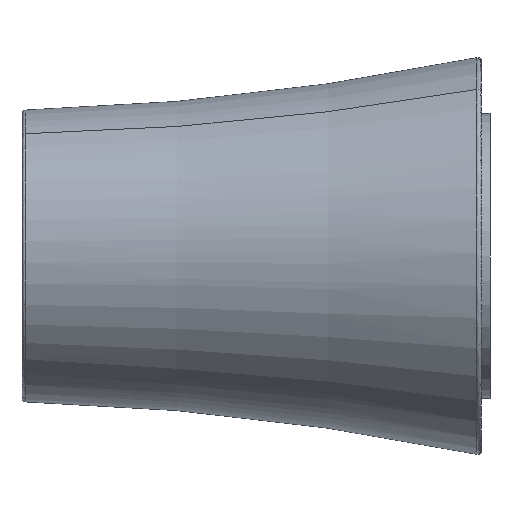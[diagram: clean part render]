
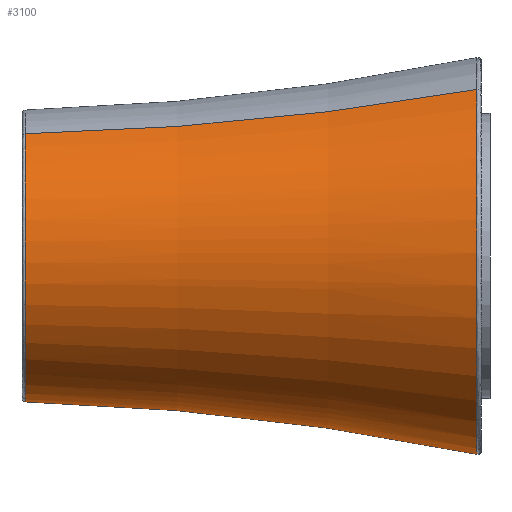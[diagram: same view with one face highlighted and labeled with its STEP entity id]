
A CAD part, left-side view. The second image highlights one B-rep face of the part: STEP entity #3100.
In plain terms, the highlighted toroidal (fillet/blend) face has major radius 1183.62 mm and minor radius 1120 mm.
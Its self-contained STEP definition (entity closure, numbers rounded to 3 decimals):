
#43 = CARTESIAN_POINT ( 'NONE',  ( -76.117, 5.709, -42.912 ) ) ;
#70 = CARTESIAN_POINT ( 'NONE',  ( -52.467, 5.709, 69.874 ) ) ;
#147 = CARTESIAN_POINT ( 'NONE',  ( -69.874, 5.709, -52.467 ) ) ;
#175 = CARTESIAN_POINT ( 'NONE',  ( -42.816, 203.745, -47.807 ) ) ;
#242 = ORIENTED_EDGE ( 'NONE', *, *, #2984, .T. ) ;
#276 = CARTESIAN_POINT ( 'NONE',  ( 27.783, 203.745, -57.851 ) ) ;
#283 = CARTESIAN_POINT ( 'NONE',  ( 47.69, 5.709, -72.996 ) ) ;
#284 = CARTESIAN_POINT ( 'NONE',  ( -47.69, 5.709, 72.996 ) ) ;
#392 = AXIS2_PLACEMENT_3D ( 'NONE', #3980, #2947, #671 ) ;
#435 = CARTESIAN_POINT ( 'NONE',  ( -68.774, 5.709, 53.901 ) ) ;
#475 = VERTEX_POINT ( 'NONE', #3193 ) ;
#540 = CARTESIAN_POINT ( 'NONE',  ( -63.993, 203.745, 4.853 ) ) ;
#565 = CARTESIAN_POINT ( 'NONE',  ( -47.807, 203.745, 42.816 ) ) ;
#616 = CARTESIAN_POINT ( 'NONE',  ( -9.04, 203.745, -63.537 ) ) ;
#644 = CARTESIAN_POINT ( 'NONE',  ( 31.517, 203.745, -55.905 ) ) ;
#666 = DIRECTION ( 'NONE',  ( 0.837, 0., 0.547 ) ) ;
#671 = DIRECTION ( 'NONE',  ( -0.547, 0., 0.837 ) ) ;
#754 = ORIENTED_EDGE ( 'NONE', *, *, #4588, .F. ) ;
#800 = CARTESIAN_POINT ( 'NONE',  ( -82.445, 5.709, 28.949 ) ) ;
#822 = CARTESIAN_POINT ( 'NONE',  ( -53.901, 5.709, -68.774 ) ) ;
#933 = CARTESIAN_POINT ( 'NONE',  ( -62.16, 203.745, -15.963 ) ) ;
#962 = CARTESIAN_POINT ( 'NONE',  ( -63.537, 203.745, 9.04 ) ) ;
#986 = CARTESIAN_POINT ( 'NONE',  ( -21.262, 203.745, -60.552 ) ) ;
#1092 = AXIS2_PLACEMENT_3D ( 'NONE', #3491, #1519, #3415 ) ;
#1178 = CARTESIAN_POINT ( 'NONE',  ( -44.477, 5.709, -75.213 ) ) ;
#1276 = CARTESIAN_POINT ( 'NONE',  ( -87.248, 5.709, -4.805 ) ) ;
#1305 = CARTESIAN_POINT ( 'NONE',  ( -57.265, 203.745, 28.973 ) ) ;
#1333 = CARTESIAN_POINT ( 'NONE',  ( -63.71, 203.745, -7.724 ) ) ;
#1359 = VERTEX_POINT ( 'NONE', #3525 ) ;
#1384 = EDGE_LOOP ( 'NONE', ( #754, #4278, #242, #3729 ) ) ;
#1519 = DIRECTION ( 'NONE',  ( 0., 1., 0. ) ) ;
#1544 = CARTESIAN_POINT ( 'NONE',  ( -86.509, 5.709, 12.308 ) ) ;
#1622 = CARTESIAN_POINT ( 'NONE',  ( 4.805, 5.709, -87.248 ) ) ;
#1650 = CARTESIAN_POINT ( 'NONE',  ( -78.768, 5.709, -37.827 ) ) ;
#1674 = CARTESIAN_POINT ( 'NONE',  ( -61.817, 203.745, 17.244 ) ) ;
#1697 = CARTESIAN_POINT ( 'NONE',  ( -4.853, 203.745, -63.993 ) ) ;
#1917 = CARTESIAN_POINT ( 'NONE',  ( 27.238, 5.709, -83.026 ) ) ;
#1941 = CARTESIAN_POINT ( 'NONE',  ( -65.091, 5.709, 58.296 ) ) ;
#2021 = CARTESIAN_POINT ( 'NONE',  ( -39.448, 5.709, -77.969 ) ) ;
#2049 = CARTESIAN_POINT ( 'NONE',  ( -48.682, 203.745, -41.818 ) ) ;
#2074 = CARTESIAN_POINT ( 'NONE',  ( -60.979, 203.745, -20.005 ) ) ;
#2099 = CARTESIAN_POINT ( 'NONE',  ( -57.851, 203.745, -27.783 ) ) ;
#2243 = VERTEX_POINT ( 'NONE', #283 ) ;
#2290 = CARTESIAN_POINT ( 'NONE',  ( 47.69, 5.709, -72.996 ) ) ;
#2315 = CARTESIAN_POINT ( 'NONE',  ( -77.969, 5.709, 39.448 ) ) ;
#2332 = FACE_OUTER_BOUND ( 'NONE', #1384, .T. ) ;
#2336 = CARTESIAN_POINT ( 'NONE',  ( -58.296, 5.709, -65.091 ) ) ;
#2363 = CARTESIAN_POINT ( 'NONE',  ( 10.517, 5.709, -86.745 ) ) ;
#2493 = CARTESIAN_POINT ( 'NONE',  ( -38.535, 203.745, 51.32 ) ) ;
#2519 = CARTESIAN_POINT ( 'NONE',  ( -39.588, 203.745, -50.512 ) ) ;
#2762 = CARTESIAN_POINT ( 'NONE',  ( -28.949, 5.709, -82.445 ) ) ;
#2788 = CARTESIAN_POINT ( 'NONE',  ( -87.13, 5.709, 6.608 ) ) ;
#2833 = EDGE_CURVE ( 'NONE', #4326, #1359, #3036, .T. ) ;
#2849 = CIRCLE ( 'NONE', #392, 1120. ) ;
#2872 = CARTESIAN_POINT ( 'NONE',  ( -55.905, 203.745, -31.517 ) ) ;
#2910 = CIRCLE ( 'NONE', #3437, 1120. ) ;
#2947 = DIRECTION ( 'NONE',  ( -0.837, 0., -0.547 ) ) ;
#2984 = EDGE_CURVE ( 'NONE', #1359, #2243, #2910, .T. ) ;
#3036 = B_SPLINE_CURVE_WITH_KNOTS ( 'NONE', 3,
 ( #4715, #2493, #3970, #565, #4396, #3913, #1305, #3621, #1674, #962, #540, #3997, #1333, #933, #2074, #2099, #2872, #3546, #2049, #175, #2519, #3238, #4371, #986, #3593, #616, #1697, #3183, #3646, #4688, #3943, #276, #644, #3283 ),
 .UNSPECIFIED., .F., .F.,
 ( 4, 2, 2, 2, 2, 2, 2, 2, 2, 2, 2, 2, 2, 2, 2, 2, 4 ),
 ( 0., 0.031, 0.063, 0.094, 0.125, 0.156, 0.188, 0.219, 0.25, 0.281, 0.313, 0.344, 0.375, 0.406, 0.438, 0.469, 0.5 ),
 .UNSPECIFIED. ) ;
#3080 = CARTESIAN_POINT ( 'NONE',  ( -84.634, 5.709, -21.734 ) ) ;
#3100 = ADVANCED_FACE ( 'NONE', ( #2332 ), #4553, .F. ) ;
#3134 = CARTESIAN_POINT ( 'NONE',  ( -12.308, 5.709, -86.509 ) ) ;
#3159 = CARTESIAN_POINT ( 'NONE',  ( -86.745, 5.709, -10.517 ) ) ;
#3183 = CARTESIAN_POINT ( 'NONE',  ( 3.529, 203.745, -64.08 ) ) ;
#3193 = CARTESIAN_POINT ( 'NONE',  ( -47.69, 5.709, 72.996 ) ) ;
#3238 = CARTESIAN_POINT ( 'NONE',  ( -32.666, 203.745, -55.241 ) ) ;
#3283 = CARTESIAN_POINT ( 'NONE',  ( 35.026, 203.745, -53.612 ) ) ;
#3377 = CARTESIAN_POINT ( 'NONE',  ( 647.376, 234.27, -990.893 ) ) ;
#3415 = DIRECTION ( 'NONE',  ( 0.547, 0., -0.837 ) ) ;
#3417 = CARTESIAN_POINT ( 'NONE',  ( 42.912, 5.709, -76.117 ) ) ;
#3437 = AXIS2_PLACEMENT_3D ( 'NONE', #3377, #666, #4446 ) ;
#3440 = CARTESIAN_POINT ( 'NONE',  ( -56.937, 5.709, 66.283 ) ) ;
#3491 = CARTESIAN_POINT ( 'NONE',  ( 0., 234.27, 0. ) ) ;
#3525 = CARTESIAN_POINT ( 'NONE',  ( 35.026, 203.745, -53.612 ) ) ;
#3546 = CARTESIAN_POINT ( 'NONE',  ( -51.32, 203.745, -38.535 ) ) ;
#3593 = CARTESIAN_POINT ( 'NONE',  ( -17.244, 203.745, -61.817 ) ) ;
#3621 = CARTESIAN_POINT ( 'NONE',  ( -60.552, 203.745, 21.262 ) ) ;
#3646 = CARTESIAN_POINT ( 'NONE',  ( 7.724, 203.745, -63.71 ) ) ;
#3729 = ORIENTED_EDGE ( 'NONE', *, *, #3805, .T. ) ;
#3805 = EDGE_CURVE ( 'NONE', #2243, #475, #3842, .T. ) ;
#3806 = CARTESIAN_POINT ( 'NONE',  ( -75.213, 5.709, 44.477 ) ) ;
#3833 = CARTESIAN_POINT ( 'NONE',  ( -83.026, 5.709, -27.238 ) ) ;
#3842 = B_SPLINE_CURVE_WITH_KNOTS ( 'NONE', 3,
 ( #2290, #3417, #4214, #1917, #4239, #2363, #1622, #4264, #3134, #4637, #2762, #2021, #1178, #822, #2336, #4663, #147, #43, #1650, #3833, #3080, #3159, #1276, #2788, #1544, #4189, #800, #2315, #3806, #435, #1941, #3440, #70, #284 ),
 .UNSPECIFIED., .F., .F.,
 ( 4, 2, 2, 2, 2, 2, 2, 2, 2, 2, 2, 2, 2, 2, 2, 2, 4 ),
 ( 0.5, 0.531, 0.563, 0.594, 0.625, 0.656, 0.688, 0.719, 0.75, 0.781, 0.813, 0.844, 0.875, 0.906, 0.938, 0.969, 1. ),
 .UNSPECIFIED. ) ;
#3913 = CARTESIAN_POINT ( 'NONE',  ( -55.241, 203.745, 32.666 ) ) ;
#3943 = CARTESIAN_POINT ( 'NONE',  ( 20.005, 203.745, -60.979 ) ) ;
#3970 = CARTESIAN_POINT ( 'NONE',  ( -41.818, 203.745, 48.682 ) ) ;
#3980 = CARTESIAN_POINT ( 'NONE',  ( -647.376, 234.27, 990.893 ) ) ;
#3997 = CARTESIAN_POINT ( 'NONE',  ( -64.08, 203.745, -3.529 ) ) ;
#4189 = CARTESIAN_POINT ( 'NONE',  ( -84.166, 5.709, 23.479 ) ) ;
#4214 = CARTESIAN_POINT ( 'NONE',  ( 37.827, 5.709, -78.768 ) ) ;
#4239 = CARTESIAN_POINT ( 'NONE',  ( 21.734, 5.709, -84.634 ) ) ;
#4264 = CARTESIAN_POINT ( 'NONE',  ( -6.608, 5.709, -87.13 ) ) ;
#4278 = ORIENTED_EDGE ( 'NONE', *, *, #2833, .T. ) ;
#4326 = VERTEX_POINT ( 'NONE', #4872 ) ;
#4371 = CARTESIAN_POINT ( 'NONE',  ( -28.973, 203.745, -57.265 ) ) ;
#4396 = CARTESIAN_POINT ( 'NONE',  ( -50.512, 203.745, 39.588 ) ) ;
#4446 = DIRECTION ( 'NONE',  ( 0.547, 0., -0.837 ) ) ;
#4553 = TOROIDAL_SURFACE ( 'NONE', #1092, 1183.624, 1120. ) ;
#4588 = EDGE_CURVE ( 'NONE', #4326, #475, #2849, .T. ) ;
#4637 = CARTESIAN_POINT ( 'NONE',  ( -23.479, 5.709, -84.166 ) ) ;
#4663 = CARTESIAN_POINT ( 'NONE',  ( -66.283, 5.709, -56.937 ) ) ;
#4688 = CARTESIAN_POINT ( 'NONE',  ( 15.963, 203.745, -62.16 ) ) ;
#4715 = CARTESIAN_POINT ( 'NONE',  ( -35.026, 203.745, 53.612 ) ) ;
#4872 = CARTESIAN_POINT ( 'NONE',  ( -35.026, 203.745, 53.612 ) ) ;
